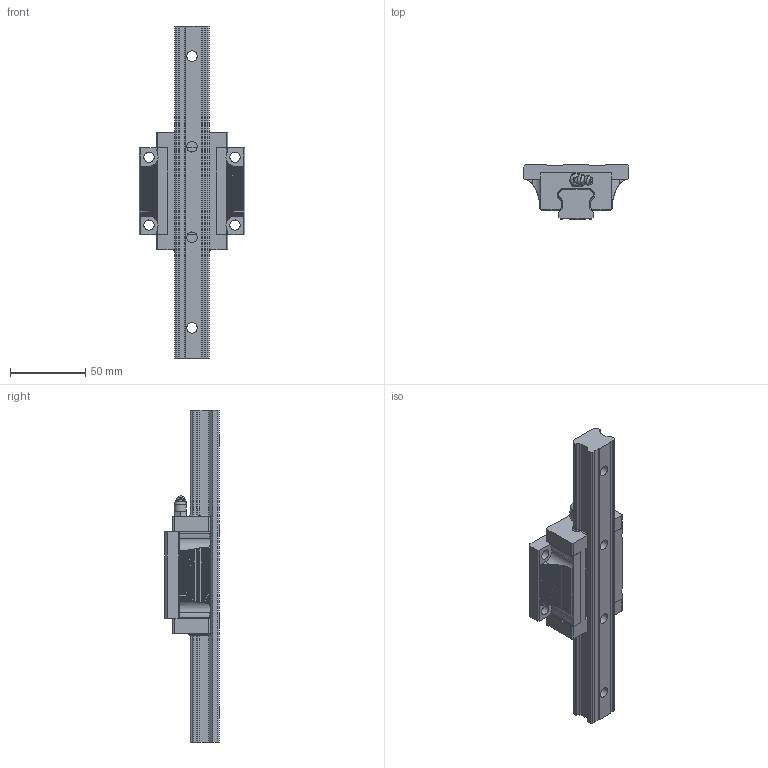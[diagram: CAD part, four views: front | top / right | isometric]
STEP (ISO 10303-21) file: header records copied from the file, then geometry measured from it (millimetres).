
FILE_DESCRIPTION((''),'2;1');
FILE_NAME('D:\製品 (図面)\カタログ用3D\変換ファイル\OZAK_3D-CAD(STEP形式)\Part2.-Linear Guides_ﾘﾆｱｶﾞｲﾄﾞ\07_Eco Guides_ｴｺｶﾞｲﾄﾞ\EGH-F\EGH25F.stp','2010-12-22T11:14:30',('Tsuchiya'),(''),'Autodesk Inventor 10','Autodesk Inventor 10','');
FILE_SCHEMA(('AUTOMOTIVE_DESIGN { 1 0 10303 214 1 1 1 1 }'));
Length unit declared in the file: millimetre
Products named in the file (3): EGH25F; EGH25F1; EGH25F2
Assembly tree (2 placements, depth 2):
  EGH25F
    EGH25F1
    EGH25F2
Bounding box: 70 x 36 x 220 mm (x, y, z)
Volume: 176976.4 mm3; surface area: 42315.6 mm2
Topology: 2 solids, 3 shells, 344 faces, 946 edges, 616 vertices
Faces by surface type: plane 263, cylinder 67, cone 6, bspline 6, sphere 1, torus 1
Full cylindrical faces by diameter (mm): 6 x3, 6.8 x4, 7 x4, 7.75 x1, 8 x1, 11 x4
Entity records: 11188 total; most frequent: CARTESIAN_POINT 2349, ORIENTED_EDGE 1832, DIRECTION 1803, EDGE_CURVE 916, VECTOR 641, LINE 641, VERTEX_POINT 610, AXIS2_PLACEMENT_3D 581
